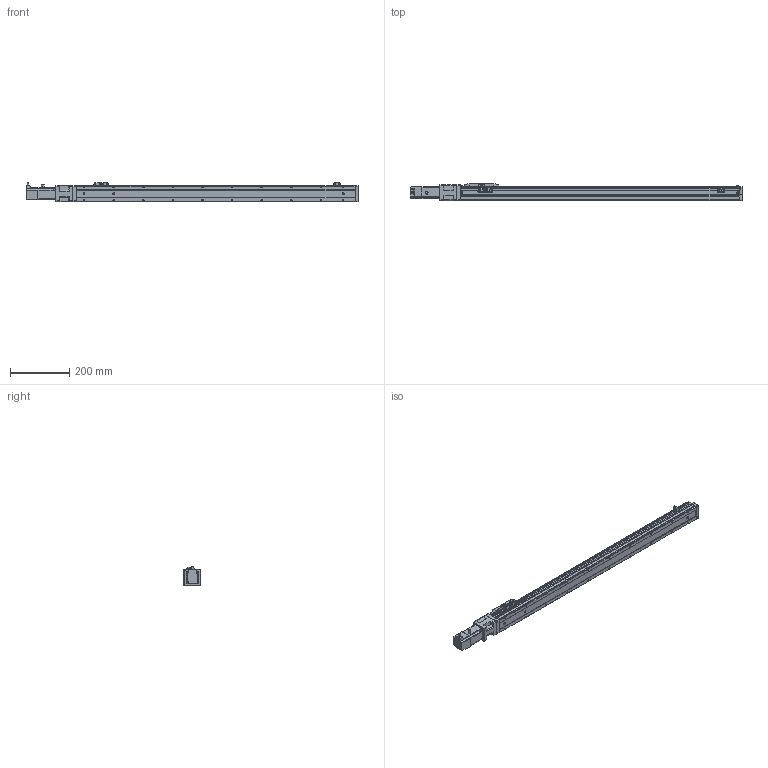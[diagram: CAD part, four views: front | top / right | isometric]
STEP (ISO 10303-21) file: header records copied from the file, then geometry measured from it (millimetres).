
FILE_DESCRIPTION (( 'STEP AP203' ), '1' );
FILE_NAME ('CTH5-L10-S800-BC-C10(¼ò).STEP', '2023-02-04T02:10:34', ( '' ), ( '' ), 'SwSTEP 2.0', 'SolidWorks 2018', '' );
FILE_SCHEMA (( 'CONFIG_CONTROL_DESIGN' ));
Length unit declared in the file: millimetre
Products named in the file (21): T10-p1; 嫖萇羲壽郪磁1; CTH5萇儂釱欶; hex nuts, style 1-grades ab gb_GB_FASTENER_NUT_SNAB1 M3-N; 葩璃 蚾饜极13^CTH8-L10-S50-BM-C40(潠)1; CTH5ヶ耜啣(潠); M3｡｣; CTH5耜晚蹟隊; CTH5耜晚蹟隊-1; CTH5-BC-03; PM-Y45; CTH5綴耜啣; CTH嫖萇羲壽假蚾啣; CTH5覜茼え; CTH5菁釱-L940; CTH5-L10-S800-BC-C10(潠); 100W萇儂; CTH5萇儂釱; M3; 内六角圆柱头螺钉M3-2; CTH5賑怢
Assembly tree (37 placements, depth 3):
  CTH5-L10-S800-BC-C10(潠)
    CTH5綴耜啣
    CTH5賑怢
    CTH5ヶ耜啣(潠)
    CTH5菁釱-L940
    CTH5耜晚蹟隊  x2
    CTH5萇儂釱
      CTH5-BC-03
    CTH5萇儂釱欶
    100W萇儂
      T10-p1
    嫖萇羲壽郪磁1  x2
      CTH嫖萇羲壽假蚾啣
      PM-Y45
      M3｡｣
      内六角圆柱头螺钉M3-2
      hex nuts, style 1-grades ab gb_GB_FASTENER_NUT_SNAB1 M3-N
    CTH5覜茼え
    葩璃 蚾饜极13^CTH8-L10-S50-BM-C40(潠)1
      CTH嫖萇羲壽假蚾啣
      PM-Y45
      内六角圆柱头螺钉M3-2  x2
      M3｡｣  x2
      hex nuts, style 1-grades ab gb_GB_FASTENER_NUT_SNAB1 M3-N  x2
    M3  x2
    CTH5耜晚蹟隊-1  x4
Bounding box: 1121.1 x 60 x 65.7 mm (x, y, z)
Volume: 2336127.6 mm3; surface area: 321292.4 mm2
Topology: 40 solids, 40 shells, 1563 faces, 3914 edges, 2518 vertices
Faces by surface type: plane 848, cylinder 454, cone 199, torus 44, bspline 18
Entity records: 35451 total; most frequent: CARTESIAN_POINT 6512, DIRECTION 5630, ORIENTED_EDGE 5376, EDGE_CURVE 2688, AXIS2_PLACEMENT_3D 1955, VERTEX_POINT 1724, LINE 1720, VECTOR 1720
